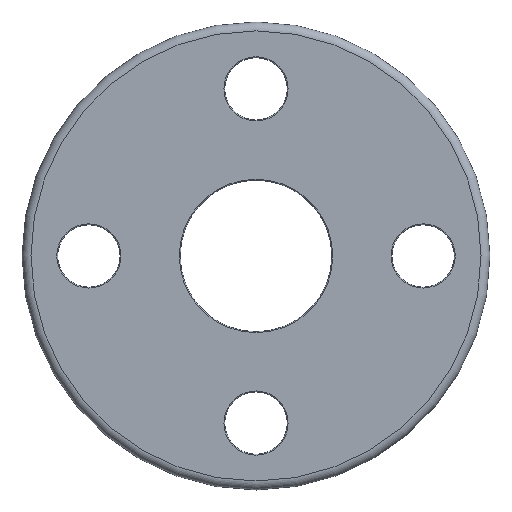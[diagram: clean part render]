
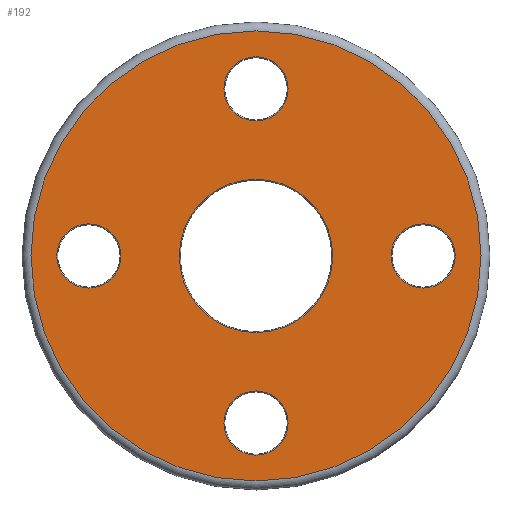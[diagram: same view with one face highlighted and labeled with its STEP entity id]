
A CAD part, top view. The second image highlights one B-rep face of the part: STEP entity #192.
In plain terms, the highlighted planar face has unit normal (0, 0, 1).
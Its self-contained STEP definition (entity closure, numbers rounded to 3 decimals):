
#21=PLANE('',#210);
#24=FACE_BOUND('',#62,.T.);
#25=FACE_BOUND('',#63,.T.);
#26=FACE_BOUND('',#64,.T.);
#27=FACE_BOUND('',#65,.T.);
#28=FACE_BOUND('',#66,.T.);
#46=FACE_OUTER_BOUND('',#61,.T.);
#61=EDGE_LOOP('',(#151));
#62=EDGE_LOOP('',(#152));
#63=EDGE_LOOP('',(#153));
#64=EDGE_LOOP('',(#154));
#65=EDGE_LOOP('',(#155));
#66=EDGE_LOOP('',(#156));
#96=CIRCLE('',#209,17.2);
#97=CIRCLE('',#211,50.5);
#98=CIRCLE('',#212,7.2);
#99=CIRCLE('',#213,7.2);
#100=CIRCLE('',#214,7.2);
#101=CIRCLE('',#215,7.2);
#114=VERTEX_POINT('',#309);
#115=VERTEX_POINT('',#312);
#116=VERTEX_POINT('',#314);
#117=VERTEX_POINT('',#316);
#118=VERTEX_POINT('',#318);
#119=VERTEX_POINT('',#320);
#132=EDGE_CURVE('',#114,#114,#96,.T.);
#133=EDGE_CURVE('',#115,#115,#97,.T.);
#134=EDGE_CURVE('',#116,#116,#98,.T.);
#135=EDGE_CURVE('',#117,#117,#99,.T.);
#136=EDGE_CURVE('',#118,#118,#100,.T.);
#137=EDGE_CURVE('',#119,#119,#101,.T.);
#151=ORIENTED_EDGE('',*,*,#133,.F.);
#152=ORIENTED_EDGE('',*,*,#134,.F.);
#153=ORIENTED_EDGE('',*,*,#135,.F.);
#154=ORIENTED_EDGE('',*,*,#136,.F.);
#155=ORIENTED_EDGE('',*,*,#137,.F.);
#156=ORIENTED_EDGE('',*,*,#132,.F.);
#192=ADVANCED_FACE('',(#46,#24,#25,#26,#27,#28),#21,.T.);
#209=AXIS2_PLACEMENT_3D('',#310,#245,#246);
#210=AXIS2_PLACEMENT_3D('',#311,#247,#248);
#211=AXIS2_PLACEMENT_3D('',#313,#249,#250);
#212=AXIS2_PLACEMENT_3D('',#315,#251,#252);
#213=AXIS2_PLACEMENT_3D('',#317,#253,#254);
#214=AXIS2_PLACEMENT_3D('',#319,#255,#256);
#215=AXIS2_PLACEMENT_3D('',#321,#257,#258);
#245=DIRECTION('center_axis',(0.,0.,1.));
#246=DIRECTION('ref_axis',(-1.,0.,0.));
#247=DIRECTION('center_axis',(0.,0.,1.));
#248=DIRECTION('ref_axis',(1.,0.,0.));
#249=DIRECTION('center_axis',(0.,0.,-1.));
#250=DIRECTION('ref_axis',(-1.,0.,0.));
#251=DIRECTION('center_axis',(0.,0.,1.));
#252=DIRECTION('ref_axis',(1.,0.,0.));
#253=DIRECTION('center_axis',(0.,0.,1.));
#254=DIRECTION('ref_axis',(-1.,0.,0.));
#255=DIRECTION('center_axis',(0.,0.,1.));
#256=DIRECTION('ref_axis',(0.,-1.,0.));
#257=DIRECTION('center_axis',(0.,0.,1.));
#258=DIRECTION('ref_axis',(0.,1.,0.));
#309=CARTESIAN_POINT('',(17.2,0.,12.));
#310=CARTESIAN_POINT('Origin',(0.,0.,12.));
#311=CARTESIAN_POINT('Origin',(0.,0.,
12.));
#312=CARTESIAN_POINT('',(50.5,0.,12.));
#313=CARTESIAN_POINT('Origin',(0.,0.,12.));
#314=CARTESIAN_POINT('',(-7.2,-37.5,12.));
#315=CARTESIAN_POINT('Origin',(0.,-37.5,12.));
#316=CARTESIAN_POINT('',(7.2,37.5,12.));
#317=CARTESIAN_POINT('Origin',(0.,37.5,12.));
#318=CARTESIAN_POINT('',(-37.5,7.2,12.));
#319=CARTESIAN_POINT('Origin',(-37.5,0.,12.));
#320=CARTESIAN_POINT('',(37.5,-7.2,12.));
#321=CARTESIAN_POINT('Origin',(37.5,0.,12.));
